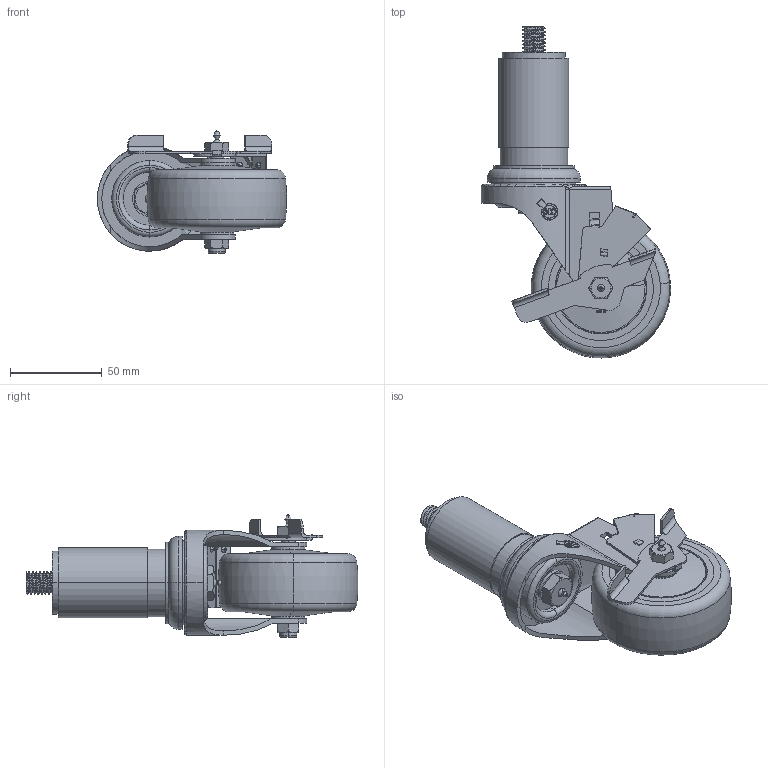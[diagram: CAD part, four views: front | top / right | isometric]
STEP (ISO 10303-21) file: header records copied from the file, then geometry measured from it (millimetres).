
FILE_DESCRIPTION (( 'STEP AP214' ), '1' );
FILE_NAME ('SCC-EX20S314-PPUB-ORG-TLB-112 3D STEP.STEP', '2024-10-07T02:23:18', ( '' ), ( '' ), 'SwSTEP 2.0', 'SolidWorks 2016', '' );
FILE_SCHEMA (( 'AUTOMOTIVE_DESIGN' ));
Length unit declared in the file: inch
Products named in the file (1): SCC-EX20S314-PPUB-ORG-TLB-112 3D STEP
Bounding box: 103.08 x 180.9 x 66.73 mm (x, y, z)
Volume: 289168.3 mm3; surface area: 74179.2 mm2
Topology: 7 solids, 9 shells, 483 faces, 1165 edges, 737 vertices
Faces by surface type: cylinder 157, plane 150, torus 67, bspline 67, sphere 26, cone 16
Entity records: 36056 total; most frequent: CARTESIAN_POINT 18865, ORIENTED_EDGE 2322, DIRECTION 2169, EDGE_CURVE 1161, AXIS2_PLACEMENT_3D 856, VERTEX_POINT 735, EDGE_LOOP 538, DIMENSIONAL_EXPONENTS 492
